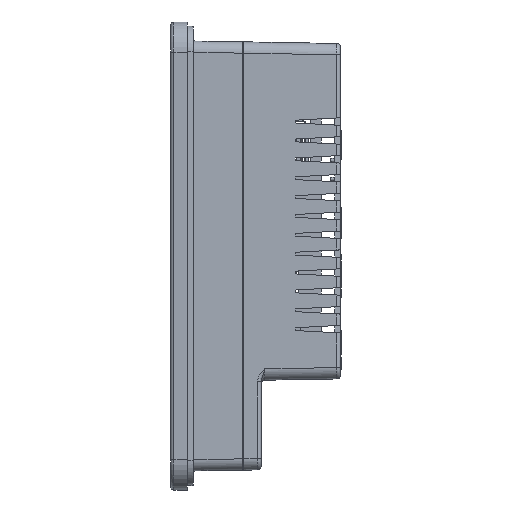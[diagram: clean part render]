
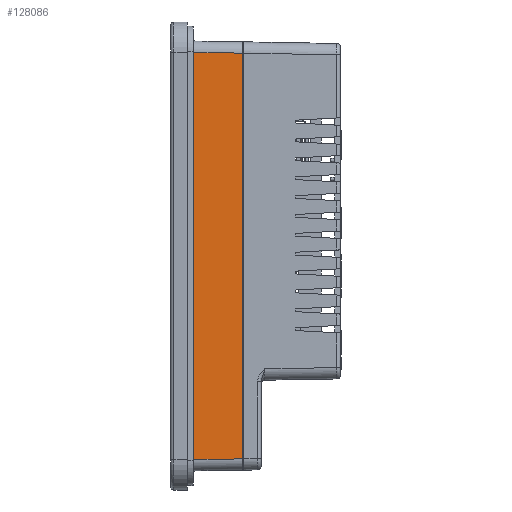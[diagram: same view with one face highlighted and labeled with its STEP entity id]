
A CAD part, left-side view. The second image highlights one B-rep face of the part: STEP entity #128086.
In plain terms, the highlighted planar face has unit normal (-1, -0.018, 0).
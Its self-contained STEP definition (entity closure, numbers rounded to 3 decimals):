
#3923 = CARTESIAN_POINT ( 'NONE',  ( -88.247, -14.5, 53.747 ) ) ;
#14441 = EDGE_LOOP ( 'NONE', ( #151215, #62454, #101136, #64431 ) ) ;
#22751 = CARTESIAN_POINT ( 'NONE',  ( -88.247, -14.5, 57. ) ) ;
#25225 = DIRECTION ( 'NONE',  ( -0.017, 1., 0.017 ) ) ;
#37307 = CARTESIAN_POINT ( 'NONE',  ( -88.501, 0.052, 54.001 ) ) ;
#37452 = DIRECTION ( 'NONE',  ( 0., 0., -1. ) ) ;
#37577 = VERTEX_POINT ( 'NONE', #46261 ) ;
#37623 = VERTEX_POINT ( 'NONE', #3923 ) ;
#40261 = DIRECTION ( 'NONE',  ( -1., -0.017, 0. ) ) ;
#46261 = CARTESIAN_POINT ( 'NONE',  ( -88.526, 1.5, 54.027 ) ) ;
#47397 = EDGE_CURVE ( 'NONE', #51749, #139774, #136744, .T. ) ;
#47799 = AXIS2_PLACEMENT_3D ( 'NONE', #150608, #40261, #73354 ) ;
#51749 = VERTEX_POINT ( 'NONE', #81670 ) ;
#62454 = ORIENTED_EDGE ( 'NONE', *, *, #47397, .T. ) ;
#64431 = ORIENTED_EDGE ( 'NONE', *, *, #136927, .T. ) ;
#72905 = CARTESIAN_POINT ( 'NONE',  ( -88.526, 1.5, -54. ) ) ;
#73354 = DIRECTION ( 'NONE',  ( 0.017, -1., 0. ) ) ;
#74845 = VECTOR ( 'NONE', #77853, 1000. ) ;
#77853 = DIRECTION ( 'NONE',  ( 0.017, -1., 0.017 ) ) ;
#80818 = EDGE_CURVE ( 'NONE', #37577, #51749, #97068, .T. ) ;
#81670 = CARTESIAN_POINT ( 'NONE',  ( -88.526, 1.5, -54.027 ) ) ;
#87845 = FACE_OUTER_BOUND ( 'NONE', #14441, .T. ) ;
#88375 = CARTESIAN_POINT ( 'NONE',  ( -88.466, -1.936, -53.967 ) ) ;
#97068 = LINE ( 'NONE', #72905, #122886 ) ;
#97714 = LINE ( 'NONE', #37307, #122607 ) ;
#101136 = ORIENTED_EDGE ( 'NONE', *, *, #155574, .F. ) ;
#102375 = CARTESIAN_POINT ( 'NONE',  ( -88.247, -14.5, -53.747 ) ) ;
#120200 = DIRECTION ( 'NONE',  ( 0., 0., -1. ) ) ;
#121074 = VECTOR ( 'NONE', #120200, 1000. ) ;
#122607 = VECTOR ( 'NONE', #25225, 1000. ) ;
#122886 = VECTOR ( 'NONE', #37452, 1000. ) ;
#128086 = ADVANCED_FACE ( 'NONE', ( #87845 ), #137017, .T. ) ;
#131573 = LINE ( 'NONE', #22751, #121074 ) ;
#136744 = LINE ( 'NONE', #88375, #74845 ) ;
#136927 = EDGE_CURVE ( 'NONE', #37623, #37577, #97714, .T. ) ;
#137017 = PLANE ( 'NONE',  #47799 ) ;
#139774 = VERTEX_POINT ( 'NONE', #102375 ) ;
#150608 = CARTESIAN_POINT ( 'NONE',  ( -88.5, 0., 57. ) ) ;
#151215 = ORIENTED_EDGE ( 'NONE', *, *, #80818, .T. ) ;
#155574 = EDGE_CURVE ( 'NONE', #37623, #139774, #131573, .T. ) ;
